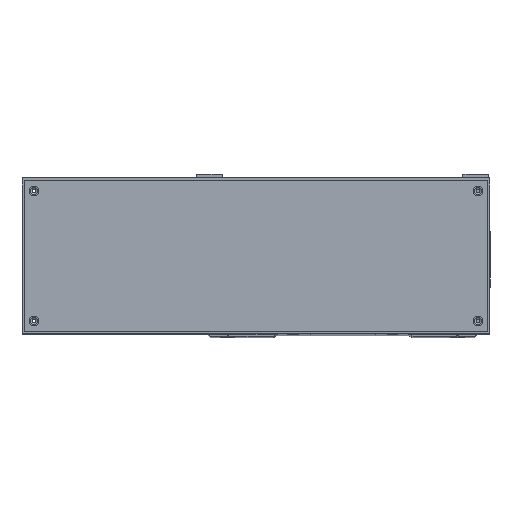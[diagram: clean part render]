
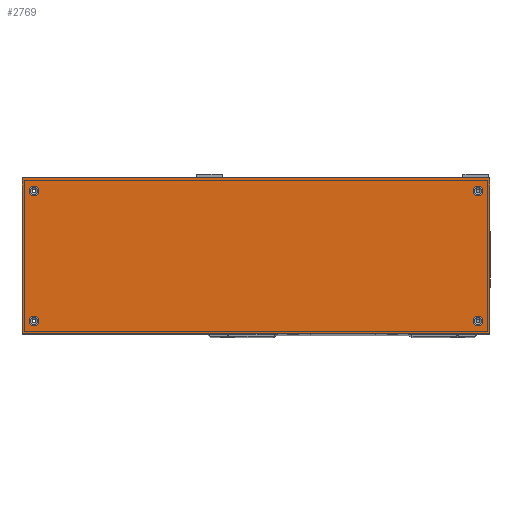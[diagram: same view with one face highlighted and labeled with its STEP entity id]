
A CAD part, top view. The second image highlights one B-rep face of the part: STEP entity #2769.
In plain terms, the highlighted planar face has unit normal (0, 0, 1).
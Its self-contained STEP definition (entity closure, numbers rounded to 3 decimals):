
#1115=FACE_BOUND('',#4804,.T.);
#1116=FACE_BOUND('',#4805,.T.);
#1117=FACE_BOUND('',#4806,.T.);
#1118=FACE_BOUND('',#4807,.T.);
#1119=FACE_BOUND('',#4808,.T.);
#2001=CIRCLE('',#15933,2.25);
#2002=CIRCLE('',#15934,2.25);
#2003=CIRCLE('',#15935,2.25);
#2004=CIRCLE('',#15936,2.25);
#2769=ADVANCED_FACE('',(#1115,#1116,#1117,#1118,#1119),#3350,.F.);
#3350=PLANE('',#15937);
#4804=EDGE_LOOP('',(#7687));
#4805=EDGE_LOOP('',(#7688));
#4806=EDGE_LOOP('',(#7689));
#4807=EDGE_LOOP('',(#7690));
#4808=EDGE_LOOP('',(#7691,#7692,#7693,#7694));
#7687=ORIENTED_EDGE('',*,*,#12170,.F.);
#7688=ORIENTED_EDGE('',*,*,#12171,.F.);
#7689=ORIENTED_EDGE('',*,*,#12172,.F.);
#7690=ORIENTED_EDGE('',*,*,#12173,.F.);
#7691=ORIENTED_EDGE('',*,*,#11162,.F.);
#7692=ORIENTED_EDGE('',*,*,#12174,.F.);
#7693=ORIENTED_EDGE('',*,*,#12175,.F.);
#7694=ORIENTED_EDGE('',*,*,#11124,.F.);
#9619=VERTEX_POINT('',#22121);
#9620=VERTEX_POINT('',#22123);
#9649=VERTEX_POINT('',#22195);
#10323=VERTEX_POINT('',#26285);
#10324=VERTEX_POINT('',#26287);
#10325=VERTEX_POINT('',#26289);
#10326=VERTEX_POINT('',#26291);
#10327=VERTEX_POINT('',#26293);
#11124=EDGE_CURVE('',#9619,#9620,#12935,.T.);
#11162=EDGE_CURVE('',#9649,#9619,#12970,.T.);
#12170=EDGE_CURVE('',#10323,#10323,#2001,.T.);
#12171=EDGE_CURVE('',#10324,#10324,#2002,.T.);
#12172=EDGE_CURVE('',#10325,#10325,#2003,.T.);
#12173=EDGE_CURVE('',#10326,#10326,#2004,.T.);
#12174=EDGE_CURVE('',#10327,#9649,#13529,.T.);
#12175=EDGE_CURVE('',#9620,#10327,#13530,.T.);
#12935=LINE('',#22122,#14003);
#12970=LINE('',#22196,#14038);
#13529=LINE('',#26292,#14597);
#13530=LINE('',#26294,#14598);
#14003=VECTOR('',#17164,1.);
#14038=VECTOR('',#17217,1.);
#14597=VECTOR('',#19398,1.);
#14598=VECTOR('',#19399,1.);
#15933=AXIS2_PLACEMENT_3D('',#26284,#19390,#19391);
#15934=AXIS2_PLACEMENT_3D('',#26286,#19392,#19393);
#15935=AXIS2_PLACEMENT_3D('',#26288,#19394,#19395);
#15936=AXIS2_PLACEMENT_3D('',#26290,#19396,#19397);
#15937=AXIS2_PLACEMENT_3D('',#26295,#19400,#19401);
#17164=DIRECTION('',(-1.,0.,0.));
#17217=DIRECTION('',(0.,-1.,0.));
#19390=DIRECTION('',(0.,0.,1.));
#19391=DIRECTION('',(-1.,0.,0.));
#19392=DIRECTION('',(0.,0.,1.));
#19393=DIRECTION('',(1.,0.,0.));
#19394=DIRECTION('',(0.,0.,1.));
#19395=DIRECTION('',(-1.,0.,0.));
#19396=DIRECTION('',(0.,0.,1.));
#19397=DIRECTION('',(1.,0.,0.));
#19398=DIRECTION('',(1.,0.,0.));
#19399=DIRECTION('',(0.,1.,0.));
#19400=DIRECTION('',(0.,0.,-1.));
#19401=DIRECTION('',(1.,0.,0.));
#22121=CARTESIAN_POINT('',(68.,0.,193.));
#22122=CARTESIAN_POINT('',(68.,0.,193.));
#22123=CARTESIAN_POINT('',(-148.,0.,193.));
#22195=CARTESIAN_POINT('',(68.,72.,193.));
#22196=CARTESIAN_POINT('',(68.,72.,193.));
#26284=CARTESIAN_POINT('',(-142.5,6.,193.));
#26285=CARTESIAN_POINT('',(-144.75,6.,193.));
#26286=CARTESIAN_POINT('',(62.5,6.,193.));
#26287=CARTESIAN_POINT('',(64.75,6.,193.));
#26288=CARTESIAN_POINT('',(62.5,66.,193.));
#26289=CARTESIAN_POINT('',(60.25,66.,193.));
#26290=CARTESIAN_POINT('',(-142.5,66.,193.));
#26291=CARTESIAN_POINT('',(-140.25,66.,193.));
#26292=CARTESIAN_POINT('',(68.,72.,193.));
#26293=CARTESIAN_POINT('',(-148.,72.,193.));
#26294=CARTESIAN_POINT('',(-148.,72.,193.));
#26295=CARTESIAN_POINT('',(-40.,36.,193.));
